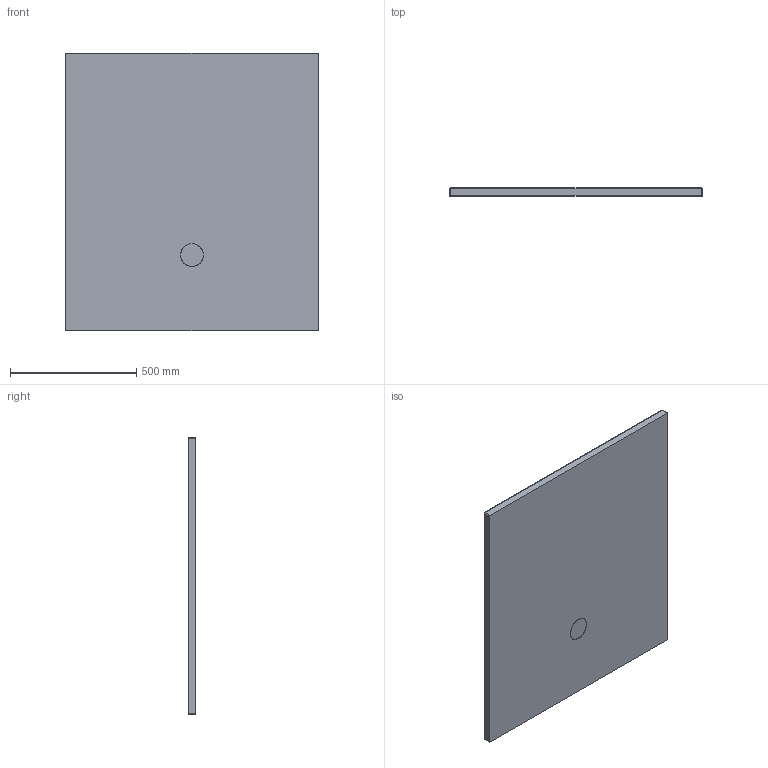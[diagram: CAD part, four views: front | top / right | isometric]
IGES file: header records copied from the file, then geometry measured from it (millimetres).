
Start section: SolidWorks IGES file using analytic representation for surfaces
Global section: file name: D:\Users\M.Szymanski\Desktop\Brodziki\Nias\B_M_NIAS_110x100x1,5.IGS; native system: SolidWorks 2011; preprocessor: SolidWorks 2011; author: M.Szymanski; date: 180222.141913; units: millimetre
Bounding box: 1000 x 30 x 1100 mm (x, y, z)
Surface area: 2347513.5 mm2 (no closed solid volume)
Topology: 0 solids, 0 shells, 45 faces, 657 edges, 656 vertices
Faces by surface type: bspline 25, revolution 20
